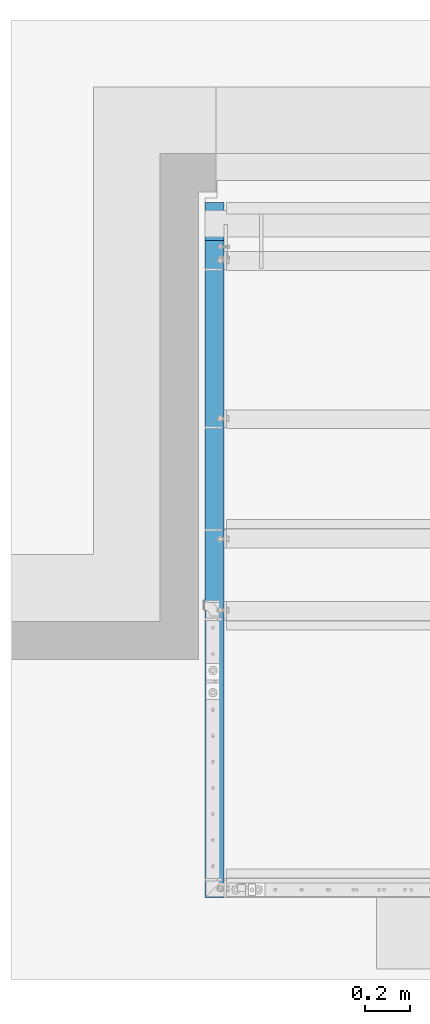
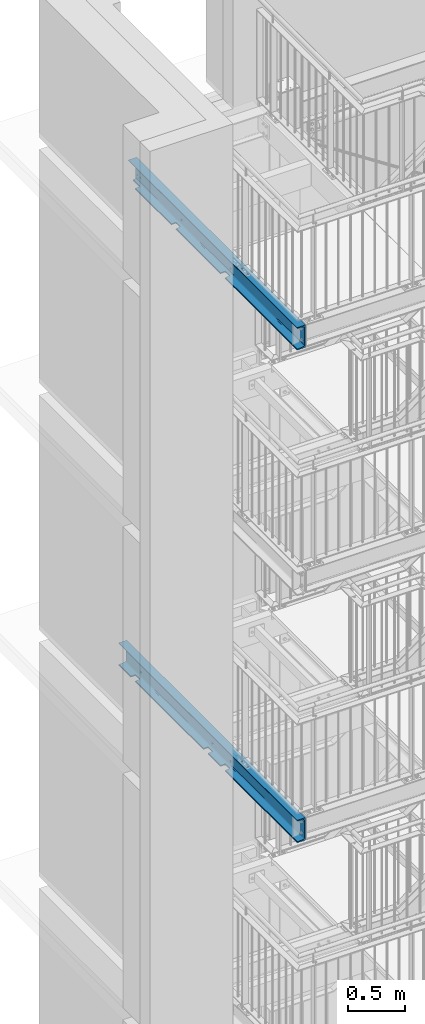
# One storey, part 117 of 831: 2 beams, 28 openings.
"""IFC2X3 building model written with IfcOpenShell, lengths in millimetres."""

from ifc_helpers import new_model, entity, si_unit, converted_unit, point, frame, frame_2d, origin, origin_with_axes, place, context, project, spatial, circle_curve, line_curve, trimmed, segment, composite_curve, circle, u_section, outline, extrude, material, element, save


model = new_model("IFC2X3")

# Units and contexts
model_context = context("Model", 3, precision=1e-09, world=origin_with_axes())
ifc_project = project(units=[si_unit("LENGTHUNIT", "METRE", prefix="MILLI"), si_unit("AREAUNIT", "SQUARE_METRE"), si_unit("VOLUMEUNIT", "CUBIC_METRE"), converted_unit("PLANEANGLEUNIT", "DEGREE", entity("IfcPlaneAngleMeasure", 0.01745329), si_unit("PLANEANGLEUNIT", "RADIAN"), dimensions=[0, 0, 0, 0, 0, 0, 0])], contexts=[model_context])

# Site, building, storey
site_placement = place(None, origin_with_axes())
site = spatial("IfcSite", under=ifc_project, at=site_placement, Name="Site", CompositionType="ELEMENT")
building_placement = place(site_placement, origin_with_axes())
building = spatial("IfcBuilding", under=site, at=building_placement, Name="Struktur 1", CompositionType="ELEMENT")
storey_placement = place(building_placement, origin_with_axes())
storey = spatial("IfcBuildingStorey", under=building, at=storey_placement, Name="Default Storey", CompositionType="ELEMENT", Elevation=0.0)

# Beam, openings
ifc_material = material(Name="S235JR")
beam_1_placement = place(None, frame((3299.413402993, 4491.736971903, 17713.999999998), z_axis=(0.0, 1.0, 0.0), x_axis=(-1.0, 0.0, 0.0)))
beam_1 = element("IfcBeam", 1, at=beam_1_placement, inside=storey, material=ifc_material, Name="Girder", ObjectType="Girder", context=model_context, shape_type="SweptSolid", body=[
    extrude(u_section(Depth=240.0, FlangeWidth=85.0, WebThickness=9.5, FlangeThickness=13.0, FilletRadius=13.0, EdgeRadius=6.5, FlangeSlope=4.574, at=frame_2d((20.2, 0.0))), origin(), (0.0, 0.0, 1.0), 2950.0),
])
opening_1_placement = place(beam_1_placement, frame((81.62874817, -30.0, 1269.999), z_axis=(0.0, 1.0, 0.0), x_axis=(-0.707106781, 0.0, -0.707106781)))
element("IfcOpeningElement", 2, at=opening_1_placement, cuts=beam_1, ObjectType="Opening", context=model_context, shape_type="SweptSolid", body=[
    extrude(outline(composite_curve([segment(trimmed(circle_curve(frame_2d((7.071067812, 7.071067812), x_axis=(1.0, 0.0)), 10.0), [point((0.0, 0.0))], [point((14.142135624, 0.0))], True, "CARTESIAN"), True, "CONTINUOUS"), segment(trimmed(line_curve((14.142135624, 0.0), (0.707106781, 0.707106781), 48.92974817), [point((14.142135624, 0.0))], [point((48.740692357, 34.598556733))], True, "CARTESIAN"), True, "CONTINUOUS"), segment(trimmed(circle_curve(frame_2d((41.669624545, 41.669624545), x_axis=(1.0, 0.0)), 10.0), [point((48.740692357, 34.598556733))], [point((48.740692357, 48.740692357))], True, "CARTESIAN"), True, "CONTINUOUS"), segment(trimmed(line_curve((48.740692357, 48.740692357), (-0.707106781, 0.707106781), 60.002), [point((48.740692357, 48.740692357))], [point((6.312871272, 91.168513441))], True, "CARTESIAN"), True, "CONTINUOUS"), segment(trimmed(circle_curve(frame_2d((-0.75819654, 84.097445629), x_axis=(1.0, 0.0)), 10.0), [point((6.312871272, 91.168513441))], [point((-7.829264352, 91.168513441))], True, "CARTESIAN"), True, "CONTINUOUS"), segment(trimmed(line_curve((-7.829264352, 91.168513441), (-0.707106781, -0.707106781), 48.92974817), [point((-7.829264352, 91.168513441))], [point((-42.427821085, 56.569956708))], True, "CARTESIAN"), True, "CONTINUOUS"), segment(trimmed(circle_curve(frame_2d((-35.356753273, 49.498888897), x_axis=(1.0, 0.0)), 10.0), [point((-42.427821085, 56.569956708))], [point((-42.427821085, 42.427821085))], True, "CARTESIAN"), True, "CONTINUOUS"), segment(trimmed(line_curve((-42.427821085, 42.427821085), (0.707106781, -0.707106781), 60.002), [point((-42.427821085, 42.427821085))], [point((0.0, 0.0))], True, "CARTESIAN"), True, "CONTINUOUS")], self_intersect=False)), origin(), (0.0, 0.0, -1.0), 190.1),
])
opening_2_placement = place(beam_1_placement, frame((81.62874817, -100.0, 2839.999), z_axis=(0.0, 1.0, 0.0), x_axis=(-0.707106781, 0.0, -0.707106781)))
element("IfcOpeningElement", 3, at=opening_2_placement, cuts=beam_1, ObjectType="Opening", context=model_context, shape_type="SweptSolid", body=[
    extrude(outline(composite_curve([segment(trimmed(circle_curve(frame_2d((7.071067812, 7.071067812), x_axis=(1.0, 0.0)), 10.0), [point((0.0, 0.0))], [point((14.142135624, 0.0))], True, "CARTESIAN"), True, "CONTINUOUS"), segment(trimmed(line_curve((14.142135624, 0.0), (0.707106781, 0.707106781), 48.92974817), [point((14.142135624, 0.0))], [point((48.740692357, 34.598556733))], True, "CARTESIAN"), True, "CONTINUOUS"), segment(trimmed(circle_curve(frame_2d((41.669624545, 41.669624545), x_axis=(1.0, 0.0)), 10.0), [point((48.740692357, 34.598556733))], [point((48.740692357, 48.740692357))], True, "CARTESIAN"), True, "CONTINUOUS"), segment(trimmed(line_curve((48.740692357, 48.740692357), (-0.707106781, 0.707106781), 150.002), [point((48.740692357, 48.740692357))], [point((-57.326739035, 154.808123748))], True, "CARTESIAN"), True, "CONTINUOUS"), segment(trimmed(circle_curve(frame_2d((-64.397806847, 147.737055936), x_axis=(1.0, 0.0)), 10.0), [point((-57.326739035, 154.808123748))], [point((-71.468874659, 154.808123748))], True, "CARTESIAN"), True, "CONTINUOUS"), segment(trimmed(line_curve((-71.468874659, 154.808123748), (-0.707106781, -0.707106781), 48.92974817), [point((-71.468874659, 154.808123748))], [point((-106.067431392, 120.209567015))], True, "CARTESIAN"), True, "CONTINUOUS"), segment(trimmed(circle_curve(frame_2d((-98.99636358, 113.138499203), x_axis=(1.0, 0.0)), 10.0), [point((-106.067431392, 120.209567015))], [point((-106.067431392, 106.067431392))], True, "CARTESIAN"), True, "CONTINUOUS"), segment(trimmed(line_curve((-106.067431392, 106.067431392), (0.707106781, -0.707106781), 150.002), [point((-106.067431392, 106.067431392))], [point((0.0, 0.0))], True, "CARTESIAN"), True, "CONTINUOUS")], self_intersect=False)), origin(), (0.0, 0.0, -1.0), 20.1),
])
opening_3_placement = place(beam_1_placement, frame((81.62874817, -43.0, 2129.999), z_axis=(0.0, 1.0, 0.0), x_axis=(-0.707106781, 0.0, -0.707106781)))
element("IfcOpeningElement", 4, at=opening_3_placement, cuts=beam_1, ObjectType="Opening", context=model_context, shape_type="SweptSolid", body=[
    extrude(outline(composite_curve([segment(trimmed(circle_curve(frame_2d((7.071067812, 7.071067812), x_axis=(1.0, 0.0)), 10.0), [point((0.0, 0.0))], [point((14.142135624, 0.0))], True, "CARTESIAN"), True, "CONTINUOUS"), segment(trimmed(line_curve((14.142135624, 0.0), (0.707106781, 0.707106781), 48.92974817), [point((14.142135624, 0.0))], [point((48.740692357, 34.598556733))], True, "CARTESIAN"), True, "CONTINUOUS"), segment(trimmed(circle_curve(frame_2d((41.669624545, 41.669624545), x_axis=(1.0, 0.0)), 10.0), [point((48.740692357, 34.598556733))], [point((48.740692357, 48.740692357))], True, "CARTESIAN"), True, "CONTINUOUS"), segment(trimmed(line_curve((48.740692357, 48.740692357), (-0.707106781, 0.707106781), 60.002), [point((48.740692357, 48.740692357))], [point((6.312871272, 91.168513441))], True, "CARTESIAN"), True, "CONTINUOUS"), segment(trimmed(circle_curve(frame_2d((-0.75819654, 84.097445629), x_axis=(1.0, 0.0)), 10.0), [point((6.312871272, 91.168513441))], [point((-7.829264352, 91.168513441))], True, "CARTESIAN"), True, "CONTINUOUS"), segment(trimmed(line_curve((-7.829264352, 91.168513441), (-0.707106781, -0.707106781), 48.92974817), [point((-7.829264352, 91.168513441))], [point((-42.427821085, 56.569956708))], True, "CARTESIAN"), True, "CONTINUOUS"), segment(trimmed(circle_curve(frame_2d((-35.356753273, 49.498888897), x_axis=(1.0, 0.0)), 10.0), [point((-42.427821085, 56.569956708))], [point((-42.427821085, 42.427821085))], True, "CARTESIAN"), True, "CONTINUOUS"), segment(trimmed(line_curve((-42.427821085, 42.427821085), (0.707106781, -0.707106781), 60.002), [point((-42.427821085, 42.427821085))], [point((0.0, 0.0))], True, "CARTESIAN"), True, "CONTINUOUS")], self_intersect=False)), origin(), (0.0, 0.0, -1.0), 177.1),
])
opening_4_placement = place(beam_1_placement, frame((-12.3, 50.000000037, 2878.901), z_axis=(1.0, 0.0, 0.0), x_axis=(0.0, 1.0, 0.0)))
element("IfcOpeningElement", 5, at=opening_4_placement, cuts=beam_1, ObjectType="Opening", context=model_context, shape_type="SweptSolid", body=[
    extrude(circle(Radius=7.001, at=frame_2d((0.0, -7.001), x_axis=(1.0, 0.0))), origin(), (0.0, 0.0, -1.0), 10.5),
])
opening_5_placement = place(beam_1_placement, frame((-12.3, 50.000000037, 2928.901), z_axis=(1.0, 0.0, 0.0), x_axis=(0.0, 1.0, 0.0)))
element("IfcOpeningElement", 6, at=opening_5_placement, cuts=beam_1, ObjectType="Opening", context=model_context, shape_type="SweptSolid", body=[
    extrude(circle(Radius=7.001, at=frame_2d((0.0, -7.001), x_axis=(1.0, 0.0))), origin(), (0.0, 0.0, -1.0), 10.5),
])
opening_6_placement = place(beam_1_placement, frame((-12.3, -49.999999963, 2878.901), z_axis=(1.0, 0.0, 0.0), x_axis=(0.0, 1.0, 0.0)))
element("IfcOpeningElement", 7, at=opening_6_placement, cuts=beam_1, ObjectType="Opening", context=model_context, shape_type="SweptSolid", body=[
    extrude(circle(Radius=7.001, at=frame_2d((0.0, -7.001), x_axis=(1.0, 0.0))), origin(), (0.0, 0.0, -1.0), 10.5),
])
opening_7_placement = place(beam_1_placement, frame((-12.3, -49.999999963, 2928.901), z_axis=(1.0, 0.0, 0.0), x_axis=(0.0, 1.0, 0.0)))
element("IfcOpeningElement", 8, at=opening_7_placement, cuts=beam_1, ObjectType="Opening", context=model_context, shape_type="SweptSolid", body=[
    extrude(circle(Radius=7.001, at=frame_2d((0.0, -7.001), x_axis=(1.0, 0.0))), origin(), (0.0, 0.0, -1.0), 10.5),
])
opening_8_placement = place(beam_1_placement, frame((27.7, 120.5, 1013.001), z_axis=(0.0, 1.0, 0.0), x_axis=(-1.0, 0.0, 0.0)))
element("IfcOpeningElement", 9, at=opening_8_placement, cuts=beam_1, ObjectType="Opening", context=model_context, shape_type="SweptSolid", body=[
    extrude(circle(Radius=7.001, at=frame_2d((0.0, 7.001), x_axis=(1.0, 0.0))), origin(), (0.0, 0.0, -1.0), 14.0),
])
opening_9_placement = place(beam_1_placement, frame((27.7, 120.5, 913.001), z_axis=(0.0, 1.0, 0.0), x_axis=(-1.0, 0.0, 0.0)))
element("IfcOpeningElement", 10, at=opening_9_placement, cuts=beam_1, ObjectType="Opening", context=model_context, shape_type="SweptSolid", body=[
    extrude(circle(Radius=7.001, at=frame_2d((0.0, 7.001), x_axis=(1.0, 0.0))), origin(), (0.0, 0.0, -1.0), 14.0),
])
opening_10_placement = place(beam_1_placement, frame((-12.3, 50.998999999, 2150.0), z_axis=(1.0, 0.0, 0.0), x_axis=(0.0, 1.0, 0.0)))
element("IfcOpeningElement", 11, at=opening_10_placement, cuts=beam_1, ObjectType="Opening", context=model_context, shape_type="SweptSolid", body=[
    extrude(circle(Radius=9.001, at=frame_2d((9.001, 0.0), x_axis=(1.0, 0.0))), origin(), (0.0, 0.0, -1.0), 10.5),
])
opening_11_placement = place(beam_1_placement, frame((-12.3, -69.001000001, 2150.0), z_axis=(1.0, 0.0, 0.0), x_axis=(0.0, 1.0, 0.0)))
element("IfcOpeningElement", 12, at=opening_11_placement, cuts=beam_1, ObjectType="Opening", context=model_context, shape_type="SweptSolid", body=[
    extrude(circle(Radius=9.001, at=frame_2d((9.001, 0.0), x_axis=(1.0, 0.0))), origin(), (0.0, 0.0, -1.0), 10.5),
])
opening_12_placement = place(beam_1_placement, frame((-12.3, 0.0, 40.0), z_axis=(-1.0, 0.0, 0.0), x_axis=(0.0, 1.0, 0.0)))
element("IfcOpeningElement", 13, at=opening_12_placement, cuts=beam_1, ObjectType="Opening", context=model_context, shape_type="SweptSolid", body=[
    extrude(circle(Radius=9.001, at=frame_2d((60.0, 0.0), x_axis=(1.0, 0.0))), origin(), (0.0, 0.0, 1.0), 10.5),
])
opening_13_placement = place(beam_1_placement, frame((-12.3, 0.0, 40.0), z_axis=(-1.0, 0.0, 0.0), x_axis=(0.0, 1.0, 0.0)))
element("IfcOpeningElement", 14, at=opening_13_placement, cuts=beam_1, ObjectType="Opening", context=model_context, shape_type="SweptSolid", body=[
    extrude(circle(Radius=9.001, at=frame_2d((-60.0, 0.0), x_axis=(1.0, 0.0))), origin(), (0.0, 0.0, 1.0), 10.5),
])
opening_14_placement = place(beam_1_placement, frame((-12.3, 50.999, 1290.0), z_axis=(1.0, 0.0, 0.0), x_axis=(0.0, 1.0, 0.0)))
element("IfcOpeningElement", 15, at=opening_14_placement, cuts=beam_1, ObjectType="Opening", context=model_context, shape_type="SweptSolid", body=[
    extrude(circle(Radius=9.001, at=frame_2d((9.001, 0.0), x_axis=(1.0, 0.0))), origin(), (0.0, 0.0, -1.0), 10.5),
])
opening_15_placement = place(beam_1_placement, frame((-12.3, -69.001, 1290.0), z_axis=(1.0, 0.0, 0.0), x_axis=(0.0, 1.0, 0.0)))
element("IfcOpeningElement", 16, at=opening_15_placement, cuts=beam_1, ObjectType="Opening", context=model_context, shape_type="SweptSolid", body=[
    extrude(circle(Radius=9.001, at=frame_2d((9.001, 0.0), x_axis=(1.0, 0.0))), origin(), (0.0, 0.0, -1.0), 10.5),
])

beam_2_placement = place(None, frame((3299.413402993, 4491.736971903, 12459.0), z_axis=(0.0, 1.0, 0.0), x_axis=(-1.0, 0.0, 0.0)))
beam_2 = element("IfcBeam", 17, at=beam_2_placement, inside=storey, material=ifc_material, Name="Girder", ObjectType="Girder", context=model_context, shape_type="SweptSolid", body=[
    extrude(u_section(Depth=240.0, FlangeWidth=85.0, WebThickness=9.5, FlangeThickness=13.0, FilletRadius=13.0, EdgeRadius=6.5, FlangeSlope=4.574, at=frame_2d((20.2, 0.0))), origin(), (0.0, 0.0, 1.0), 3120.0),
])
opening_16_placement = place(beam_2_placement, frame((81.62874817, -30.0, 1269.999), z_axis=(0.0, 1.0, 0.0), x_axis=(-0.707106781, 0.0, -0.707106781)))
element("IfcOpeningElement", 18, at=opening_16_placement, cuts=beam_2, ObjectType="Opening", context=model_context, shape_type="SweptSolid", body=[
    extrude(outline(composite_curve([segment(trimmed(circle_curve(frame_2d((7.071067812, 7.071067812), x_axis=(1.0, 0.0)), 10.0), [point((0.0, 0.0))], [point((14.142135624, 0.0))], True, "CARTESIAN"), True, "CONTINUOUS"), segment(trimmed(line_curve((14.142135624, 0.0), (0.707106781, 0.707106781), 48.92974817), [point((14.142135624, 0.0))], [point((48.740692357, 34.598556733))], True, "CARTESIAN"), True, "CONTINUOUS"), segment(trimmed(circle_curve(frame_2d((41.669624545, 41.669624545), x_axis=(1.0, 0.0)), 10.0), [point((48.740692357, 34.598556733))], [point((48.740692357, 48.740692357))], True, "CARTESIAN"), True, "CONTINUOUS"), segment(trimmed(line_curve((48.740692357, 48.740692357), (-0.707106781, 0.707106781), 60.002), [point((48.740692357, 48.740692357))], [point((6.312871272, 91.168513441))], True, "CARTESIAN"), True, "CONTINUOUS"), segment(trimmed(circle_curve(frame_2d((-0.75819654, 84.097445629), x_axis=(1.0, 0.0)), 10.0), [point((6.312871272, 91.168513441))], [point((-7.829264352, 91.168513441))], True, "CARTESIAN"), True, "CONTINUOUS"), segment(trimmed(line_curve((-7.829264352, 91.168513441), (-0.707106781, -0.707106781), 48.92974817), [point((-7.829264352, 91.168513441))], [point((-42.427821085, 56.569956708))], True, "CARTESIAN"), True, "CONTINUOUS"), segment(trimmed(circle_curve(frame_2d((-35.356753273, 49.498888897), x_axis=(1.0, 0.0)), 10.0), [point((-42.427821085, 56.569956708))], [point((-42.427821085, 42.427821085))], True, "CARTESIAN"), True, "CONTINUOUS"), segment(trimmed(line_curve((-42.427821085, 42.427821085), (0.707106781, -0.707106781), 60.002), [point((-42.427821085, 42.427821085))], [point((0.0, 0.0))], True, "CARTESIAN"), True, "CONTINUOUS")], self_intersect=False)), origin(), (0.0, 0.0, -1.0), 190.1),
])
opening_17_placement = place(beam_2_placement, frame((79.429256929, -30.0, 2839.999), z_axis=(0.0, 1.0, 0.0), x_axis=(-0.707106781, 0.0, -0.707106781)))
element("IfcOpeningElement", 19, at=opening_17_placement, cuts=beam_2, ObjectType="Opening", context=model_context, shape_type="SweptSolid", body=[
    extrude(outline(composite_curve([segment(trimmed(circle_curve(frame_2d((7.071067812, 7.071067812), x_axis=(1.0, 0.0)), 10.0), [point((0.0, 0.0))], [point((14.142135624, 0.0))], True, "CARTESIAN"), True, "CONTINUOUS"), segment(trimmed(line_curve((14.142135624, 0.0), (0.707106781, 0.707106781), 46.730256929), [point((14.142135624, 0.0))], [point((47.185417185, 33.043281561))], True, "CARTESIAN"), True, "CONTINUOUS"), segment(trimmed(circle_curve(frame_2d((40.114349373, 40.114349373), x_axis=(1.0, 0.0)), 10.0), [point((47.185417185, 33.043281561))], [point((47.185417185, 47.185417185))], True, "CARTESIAN"), True, "CONTINUOUS"), segment(trimmed(line_curve((47.185417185, 47.185417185), (-0.707106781, 0.707106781), 60.002), [point((47.185417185, 47.185417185))], [point((4.7575961, 89.61323827))], True, "CARTESIAN"), True, "CONTINUOUS"), segment(trimmed(circle_curve(frame_2d((-2.313471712, 82.542170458), x_axis=(1.0, 0.0)), 10.0), [point((4.7575961, 89.61323827))], [point((-9.384539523, 89.61323827))], True, "CARTESIAN"), True, "CONTINUOUS"), segment(trimmed(line_curve((-9.384539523, 89.61323827), (-0.707106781, -0.707106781), 46.730256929), [point((-9.384539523, 89.61323827))], [point((-42.427821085, 56.569956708))], True, "CARTESIAN"), True, "CONTINUOUS"), segment(trimmed(circle_curve(frame_2d((-35.356753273, 49.498888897), x_axis=(1.0, 0.0)), 10.0), [point((-42.427821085, 56.569956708))], [point((-42.427821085, 42.427821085))], True, "CARTESIAN"), True, "CONTINUOUS"), segment(trimmed(line_curve((-42.427821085, 42.427821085), (0.707106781, -0.707106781), 60.002), [point((-42.427821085, 42.427821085))], [point((0.0, 0.0))], True, "CARTESIAN"), True, "CONTINUOUS")], self_intersect=False)), origin(), (0.0, 0.0, -1.0), 190.1),
])
opening_18_placement = place(beam_2_placement, frame((80.021054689, -30.0, 1569.999), z_axis=(0.0, 1.0, 0.0), x_axis=(-0.707106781, 0.0, -0.707106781)))
element("IfcOpeningElement", 20, at=opening_18_placement, cuts=beam_2, ObjectType="Opening", context=model_context, shape_type="SweptSolid", body=[
    extrude(outline(composite_curve([segment(trimmed(circle_curve(frame_2d((7.071067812, 7.071067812), x_axis=(1.0, 0.0)), 10.0), [point((0.0, 0.0))], [point((14.142135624, 0.0))], True, "CARTESIAN"), True, "CONTINUOUS"), segment(trimmed(line_curve((14.142135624, 0.0), (0.707106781, 0.707106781), 47.322054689), [point((14.142135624, 0.0))], [point((47.603881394, 33.46174577))], True, "CARTESIAN"), True, "CONTINUOUS"), segment(trimmed(circle_curve(frame_2d((40.532813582, 40.532813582), x_axis=(1.0, 0.0)), 10.0), [point((47.603881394, 33.46174577))], [point((47.603881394, 47.603881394))], True, "CARTESIAN"), True, "CONTINUOUS"), segment(trimmed(line_curve((47.603881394, 47.603881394), (-0.707106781, 0.707106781), 60.002), [point((47.603881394, 47.603881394))], [point((5.176060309, 90.031702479))], True, "CARTESIAN"), True, "CONTINUOUS"), segment(trimmed(circle_curve(frame_2d((-1.895007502, 82.960634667), x_axis=(1.0, 0.0)), 10.0), [point((5.176060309, 90.031702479))], [point((-8.966075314, 90.031702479))], True, "CARTESIAN"), True, "CONTINUOUS"), segment(trimmed(line_curve((-8.966075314, 90.031702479), (-0.707106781, -0.707106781), 47.322054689), [point((-8.966075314, 90.031702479))], [point((-42.427821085, 56.569956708))], True, "CARTESIAN"), True, "CONTINUOUS"), segment(trimmed(circle_curve(frame_2d((-35.356753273, 49.498888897), x_axis=(1.0, 0.0)), 10.0), [point((-42.427821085, 56.569956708))], [point((-42.427821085, 42.427821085))], True, "CARTESIAN"), True, "CONTINUOUS"), segment(trimmed(line_curve((-42.427821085, 42.427821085), (0.707106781, -0.707106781), 60.002), [point((-42.427821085, 42.427821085))], [point((0.0, 0.0))], True, "CARTESIAN"), True, "CONTINUOUS")], self_intersect=False)), origin(), (0.0, 0.0, -1.0), 190.1),
])
opening_19_placement = place(beam_2_placement, frame((27.7, 120.5, 1013.001), z_axis=(0.0, 1.0, 0.0), x_axis=(-1.0, 0.0, 0.0)))
element("IfcOpeningElement", 21, at=opening_19_placement, cuts=beam_2, ObjectType="Opening", context=model_context, shape_type="SweptSolid", body=[
    extrude(circle(Radius=7.001, at=frame_2d((0.0, 7.001), x_axis=(1.0, 0.0))), origin(), (0.0, 0.0, -1.0), 14.0),
])
opening_20_placement = place(beam_2_placement, frame((27.7, 120.5, 913.001), z_axis=(0.0, 1.0, 0.0), x_axis=(-1.0, 0.0, 0.0)))
element("IfcOpeningElement", 22, at=opening_20_placement, cuts=beam_2, ObjectType="Opening", context=model_context, shape_type="SweptSolid", body=[
    extrude(circle(Radius=7.001, at=frame_2d((0.0, 7.001), x_axis=(1.0, 0.0))), origin(), (0.0, 0.0, -1.0), 14.0),
])
opening_21_placement = place(beam_2_placement, frame((-12.3, 50.999, 1290.0), z_axis=(1.0, 0.0, 0.0), x_axis=(0.0, 1.0, 0.0)))
element("IfcOpeningElement", 23, at=opening_21_placement, cuts=beam_2, ObjectType="Opening", context=model_context, shape_type="SweptSolid", body=[
    extrude(circle(Radius=9.001, at=frame_2d((9.001, 0.0), x_axis=(1.0, 0.0))), origin(), (0.0, 0.0, -1.0), 10.5),
])
opening_22_placement = place(beam_2_placement, frame((-12.3, -69.001, 1290.0), z_axis=(1.0, 0.0, 0.0), x_axis=(0.0, 1.0, 0.0)))
element("IfcOpeningElement", 24, at=opening_22_placement, cuts=beam_2, ObjectType="Opening", context=model_context, shape_type="SweptSolid", body=[
    extrude(circle(Radius=9.001, at=frame_2d((9.001, 0.0), x_axis=(1.0, 0.0))), origin(), (0.0, 0.0, -1.0), 10.5),
])
opening_23_placement = place(beam_2_placement, frame((-12.3, 50.999, 2860.0), z_axis=(1.0, 0.0, 0.0), x_axis=(0.0, 1.0, 0.0)))
element("IfcOpeningElement", 25, at=opening_23_placement, cuts=beam_2, ObjectType="Opening", context=model_context, shape_type="SweptSolid", body=[
    extrude(circle(Radius=9.001, at=frame_2d((9.001, 0.0), x_axis=(1.0, 0.0))), origin(), (0.0, 0.0, -1.0), 10.5),
])
opening_24_placement = place(beam_2_placement, frame((-12.3, -69.001, 2860.0), z_axis=(1.0, 0.0, 0.0), x_axis=(0.0, 1.0, 0.0)))
element("IfcOpeningElement", 26, at=opening_24_placement, cuts=beam_2, ObjectType="Opening", context=model_context, shape_type="SweptSolid", body=[
    extrude(circle(Radius=9.001, at=frame_2d((9.001, 0.0), x_axis=(1.0, 0.0))), origin(), (0.0, 0.0, -1.0), 10.5),
])
opening_25_placement = place(beam_2_placement, frame((-12.3, 0.0, 1610.0), z_axis=(-1.0, 0.0, 0.0), x_axis=(0.0, 1.0, 0.0)))
element("IfcOpeningElement", 27, at=opening_25_placement, cuts=beam_2, ObjectType="Opening", context=model_context, shape_type="SweptSolid", body=[
    extrude(circle(Radius=9.001, at=frame_2d((60.0, 0.0), x_axis=(1.0, 0.0))), origin(), (0.0, 0.0, 1.0), 10.5),
])
opening_26_placement = place(beam_2_placement, frame((-12.3, 0.0, 1610.0), z_axis=(-1.0, 0.0, 0.0), x_axis=(0.0, 1.0, 0.0)))
element("IfcOpeningElement", 28, at=opening_26_placement, cuts=beam_2, ObjectType="Opening", context=model_context, shape_type="SweptSolid", body=[
    extrude(circle(Radius=9.001, at=frame_2d((-60.0, 0.0), x_axis=(1.0, 0.0))), origin(), (0.0, 0.0, 1.0), 10.5),
])
opening_27_placement = place(beam_2_placement, frame((-12.3, 0.0, 40.0), z_axis=(-1.0, 0.0, 0.0), x_axis=(0.0, 1.0, 0.0)))
element("IfcOpeningElement", 29, at=opening_27_placement, cuts=beam_2, ObjectType="Opening", context=model_context, shape_type="SweptSolid", body=[
    extrude(circle(Radius=9.001, at=frame_2d((60.0, 0.0), x_axis=(1.0, 0.0))), origin(), (0.0, 0.0, 1.0), 10.5),
])
opening_28_placement = place(beam_2_placement, frame((-12.3, 0.0, 40.0), z_axis=(-1.0, 0.0, 0.0), x_axis=(0.0, 1.0, 0.0)))
element("IfcOpeningElement", 30, at=opening_28_placement, cuts=beam_2, ObjectType="Opening", context=model_context, shape_type="SweptSolid", body=[
    extrude(circle(Radius=9.001, at=frame_2d((-60.0, 0.0), x_axis=(1.0, 0.0))), origin(), (0.0, 0.0, 1.0), 10.5),
])

save(model, "model.ifc")
